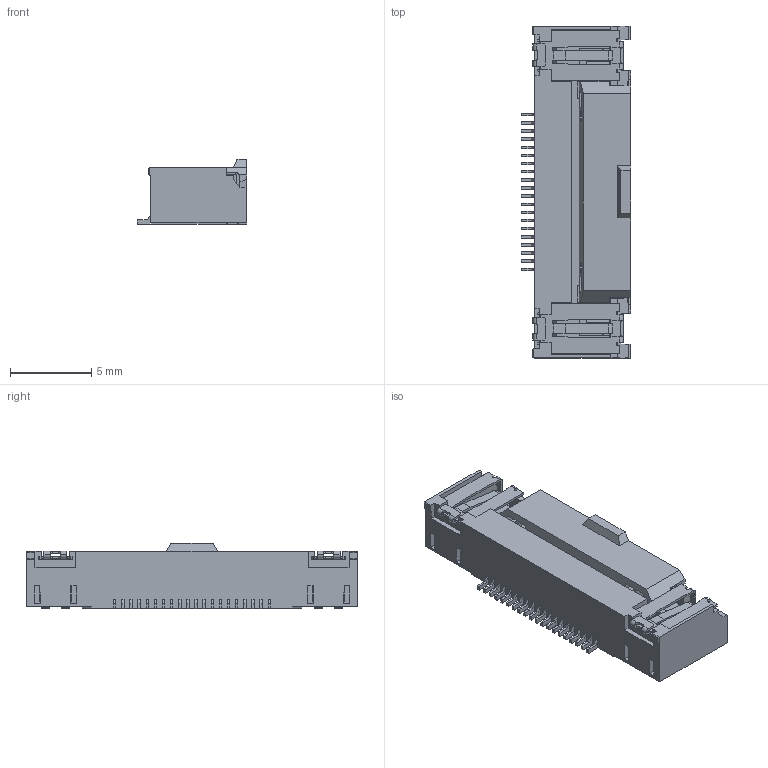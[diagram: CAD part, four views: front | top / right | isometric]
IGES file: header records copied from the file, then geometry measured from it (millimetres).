
Start section: SolidWorks IGES file using analytic representation for surfaces
Global section: file name: N:\Koyama_Utaya\★三次元モデル作成依頼\6810\003_TYPE_NEW_GND無し\006810620003.IGS; native system: SolidWorks 2021; preprocessor: SolidWorks 2021; author: SW-CPD03; date: 220616.142204; units: millimetre
Bounding box: 6.7 x 20.4 x 4.04 mm (x, y, z)
Surface area: 924.9 mm2 (no closed solid volume)
Topology: 0 solids, 0 shells, 811 faces, 5768 edges, 5768 vertices
Faces by surface type: bspline 811
